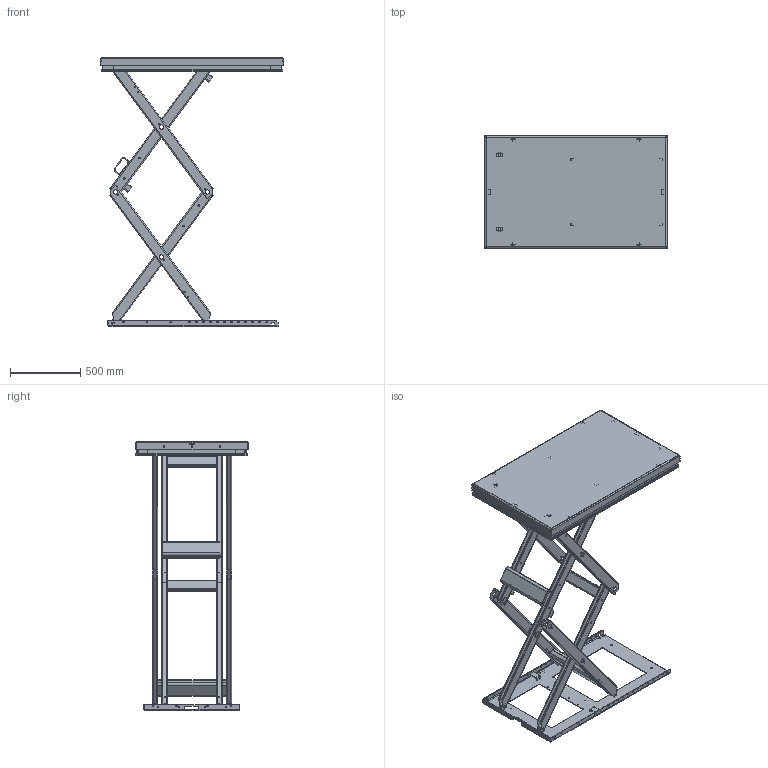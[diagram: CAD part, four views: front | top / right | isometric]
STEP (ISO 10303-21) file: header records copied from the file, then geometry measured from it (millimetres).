
FILE_DESCRIPTION(/* description */ ('Bottenram '),/* implementation_level */ '2;1');
FILE_NAME(/* name */ '\\EDMOFILE01\Users$\JOHSO\Desktop\600613_Topp.stp',/* time_stamp */ '2015-09-22T10:17:54+02:00',/* author */ ('JOHSO'),/* organization */ (''),/* preprocessor_version */ 'ST-DEVELOPER v15.6',/* originating_system */ 'Autodesk Inventor 2015',/* authorisation */ '');
FILE_SCHEMA (('AUTOMOTIVE_DESIGN { 1 0 10303 214 3 1 1 }'));
Products named in the file (45): 611365; 45258; 44681; 611364; 45051-1180; 600582; 45051-350; 600583; 45051-1180_1; 600587; 45076-490; 600584; 45076-414; 83216 - 37; 600585; 32079-01; 42394; ISO 4016 - M8 x 45; 32078-01; 42289-753; 42289-1273; 42330; 42331; 33991; 44283; 44280; 44279; 44282; ISO 7089 - 5 - 140 HV(1); 84253; 44281-1; ISO 2009 - M4 x 12ISO 7,9; 44281; ISO 4032 - M4ISO; 83928; 44277; 44278; 33992; ISO 7380 - M4 x 10; 33990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
Assembly tree (85 placements, depth 5):
  600613_TEMP
    611364
      611365
      45258  x2
      44681  x2
    600583
      600582  x2
        45051-1180
      45051-350
    600584
      600587  x2
        45051-1180_1
      45076-490
    600585
      45051-350
      600582  x2
        45051-1180
      45076-414
      83216 - 37  x4
    600587  x2
      45051-1180_1
    32078-01
      32079-01
      45258  x2
      42394  x2
      ISO 4016 - M8 x 45  x4
    31766 [Member=1300x800]
      42289-753  x2
      42289-1273  x2
      42330  x4
      42331  x4
      33990  x2
        33991
        44283
        44280
        44279
        44282
        ISO 7089 - 5 - 140 HV(1)
        84253
        44281
          44281-1
          ISO 2009 - M4 x 12ISO 7,9
        ISO 4032 - M4ISO
        83928
        44277
        44278
        33992
        ISO 7380 - M4 x 10
      43476  x4
      43481  x4
      ISO 4032 - M8ISO  x4
Bounding box: 1300 x 800 x 1920 mm (x, y, z)
Volume: 20458046.3 mm3; surface area: 9876702.4 mm2
Topology: 96 solids, 96 shells, 4817 faces, 13064 edges, 8525 vertices
Faces by surface type: plane 2494, cylinder 1575, bspline 532, cone 106, torus 62, sphere 48
Full cylindrical faces by diameter (mm): 0.474 x2, 1 x4, 3 x4, 3.141 x4, 3.2 x4, 3.242 x4, 4 x14, 4.3 x4, 4.9 x2, 5 x4, 5.2 x6, 5.3 x4, 5.55 x2, 6.647 x4, 6.8 x8, 7.4 x24, 7.6 x4, 8 x10, 8.5 x4, 10 x6, 10.1 x16, 10.2 x16, 10.5 x20, 11 x2, 12 x4, 12.5 x2, 13 x10, 16 x8, 20.1 x4, 30.3 x16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
Entity records: 81933 total; most frequent: CARTESIAN_POINT 22320, ORIENTED_EDGE 12430, DIRECTION 11448, EDGE_CURVE 6214, VERTEX_POINT 4167, LINE 3952, VECTOR 3952, AXIS2_PLACEMENT_3D 3748
